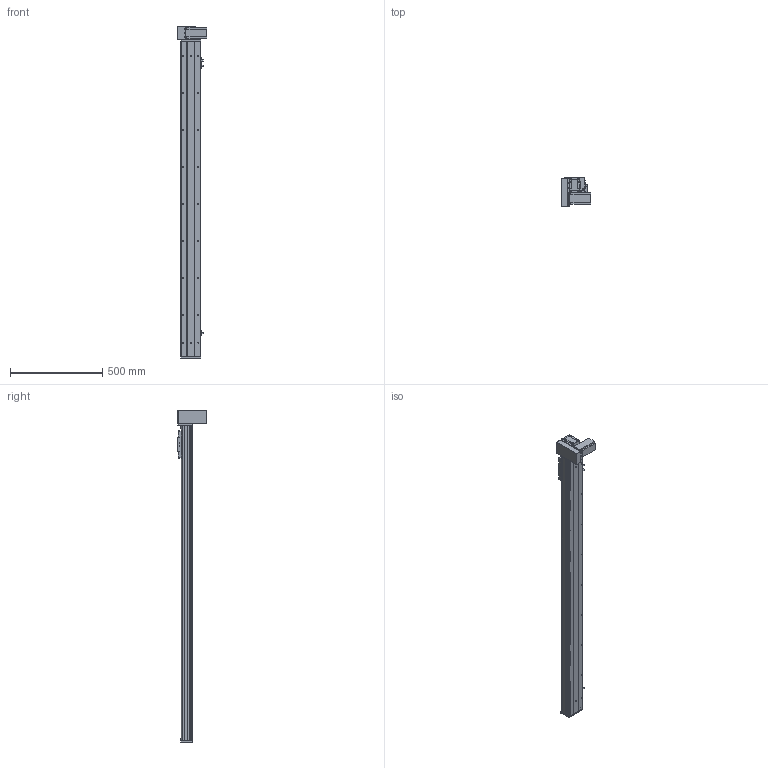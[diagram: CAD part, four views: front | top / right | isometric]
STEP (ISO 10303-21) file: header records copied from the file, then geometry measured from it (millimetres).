
FILE_DESCRIPTION (( 'STEP AP203' ), '1' );
FILE_NAME ('Y10CB-D90-S1450-BM-P400W.STEP', '2020-02-16T09:13:21', ( '微软用户' ), ( '微软中国' ), 'SwSTEP 2.0', 'SolidWorks 2017', '' );
FILE_SCHEMA (( 'CONFIG_CONTROL_DESIGN' ));
Length unit declared in the file: millimetre
Products named in the file (18): Y100-135俋离換覜ん--; 0B-源倛裔啣; Y10B--々湍喘謫眊--666; 0B-埴倛裔啣; 00B-俋欶BM--; 10CB-詩湍-; Y10B-耜蚾蟀諉啣----; Y10CB- 掛极耜裔啣-毀---; 0CB-雄赽釱---; Y10CB-D90-S1450-BM-P400W; Y10C---詩湍揤啣; 0Cb-俋欶---; 10CB9-掛极; Y10B-々湍喘謫眊楊擘啣--; 10CB-耜裔; 0B-萇儂楊擘啣; Y135C-陔俋离換覜結え-; san松下电机400不带刹车----
Assembly tree (21 placements, depth 2):
  Y10CB-D90-S1450-BM-P400W
    0CB-雄赽釱---
    0Cb-俋欶---
    Y10B-々湍喘謫眊楊擘啣--
    0B-萇儂楊擘啣
    san松下电机400不带刹车----
    0B-源倛裔啣
    0B-埴倛裔啣
    10CB-詩湍-
    Y10CB- 掛极耜裔啣-毀---  x2
    Y10C---詩湍揤啣  x2
    10CB9-掛极
    10CB-耜裔
    Y135C-陔俋离換覜結え-
    Y100-135俋离換覜ん--  x3
    Y10B--々湍喘謫眊--666
    00B-俋欶BM--
    Y10B-耜蚾蟀諉啣----
Bounding box: 157 x 156 x 1796 mm (x, y, z)
Volume: 3921208.4 mm3; surface area: 1807676.8 mm2
Topology: 21 solids, 21 shells, 1014 faces, 2723 edges, 1778 vertices
Faces by surface type: cylinder 509, plane 481, cone 24
Entity records: 31912 total; most frequent: CARTESIAN_POINT 5765, DIRECTION 5134, ORIENTED_EDGE 4916, EDGE_CURVE 2458, AXIS2_PLACEMENT_3D 1837, VERTEX_POINT 1604, VECTOR 1460, LINE 1460
